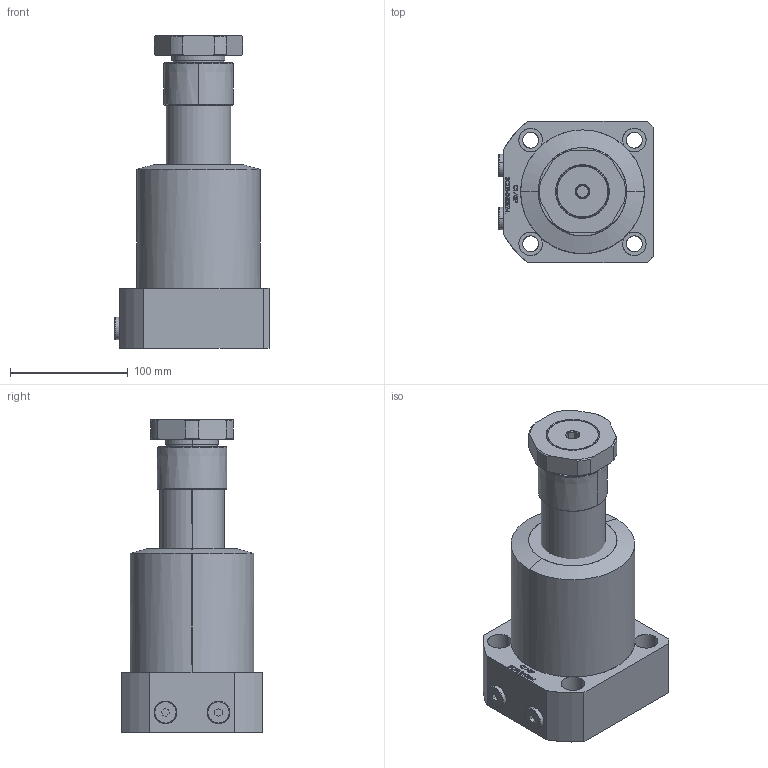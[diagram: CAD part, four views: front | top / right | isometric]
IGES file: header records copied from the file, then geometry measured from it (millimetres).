
Start section: SolidWorks IGES file using analytic representation for surfaces
Global section: file name: D:\karuppas\Clasp\3D model\SWING CYLINDER\bottom mounting swing cylinder\SC08-01052-L\SC08-01052-L.IGS; native system: SolidWorks 2017; preprocessor: SolidWorks 2017; author: pc; date: 220708.225530; units: millimetre
Bounding box: 131 x 120 x 265.6 mm (x, y, z)
Surface area: 150405.3 mm2 (no closed solid volume)
Topology: 0 solids, 0 shells, 379 faces, 6241 edges, 6240 vertices
Faces by surface type: bspline 274, revolution 105
